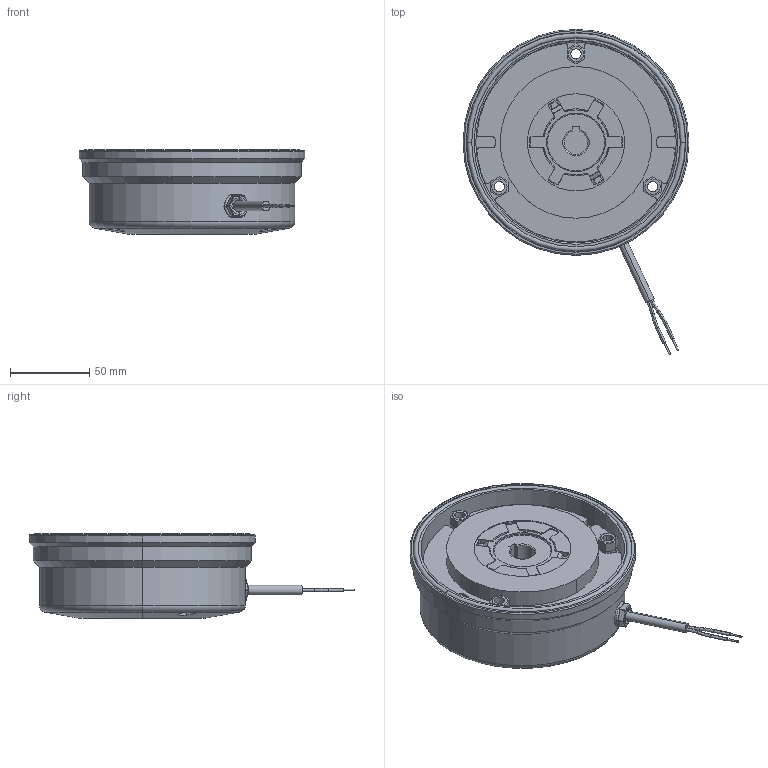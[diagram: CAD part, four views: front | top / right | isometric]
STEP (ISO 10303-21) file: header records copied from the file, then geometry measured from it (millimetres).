
FILE_DESCRIPTION (( 'STEP AP214' ), '1' );
FILE_NAME ('dr_bk_0428_mu.STEP', '2021-11-08T14:01:45', ( '' ), ( '' ), 'SwSTEP 2.0', 'SolidWorks 2019', '' );
FILE_SCHEMA (( 'AUTOMOTIVE_DESIGN' ));
Length unit declared in the file: millimetre
Products named in the file (8): 10068384_000; 10068383_000; dr_bk_0428_mu; 10068619_000; 10068385_000; 10068611_000; 10068386_000; 10068618_000
Assembly tree (9 placements, depth 2):
  dr_bk_0428_mu
    10068611_000
    10068384_000
    10068383_000  x3
    10068385_000
    10068386_000
    10068618_000
    10068619_000
Bounding box: 143 x 205.75 x 53.4 mm (x, y, z)
Volume: 603440.3 mm3; surface area: 128028.1 mm2
Topology: 11 solids, 11 shells, 539 faces, 1315 edges, 797 vertices
Faces by surface type: cylinder 246, plane 144, bspline 48, cone 44, torus 37, sphere 20
Entity records: 18255 total; most frequent: CARTESIAN_POINT 4530, DIRECTION 2531, ORIENTED_EDGE 2410, EDGE_CURVE 1205, AXIS2_PLACEMENT_3D 1020, VERTEX_POINT 741, CIRCLE 551, EDGE_LOOP 548
